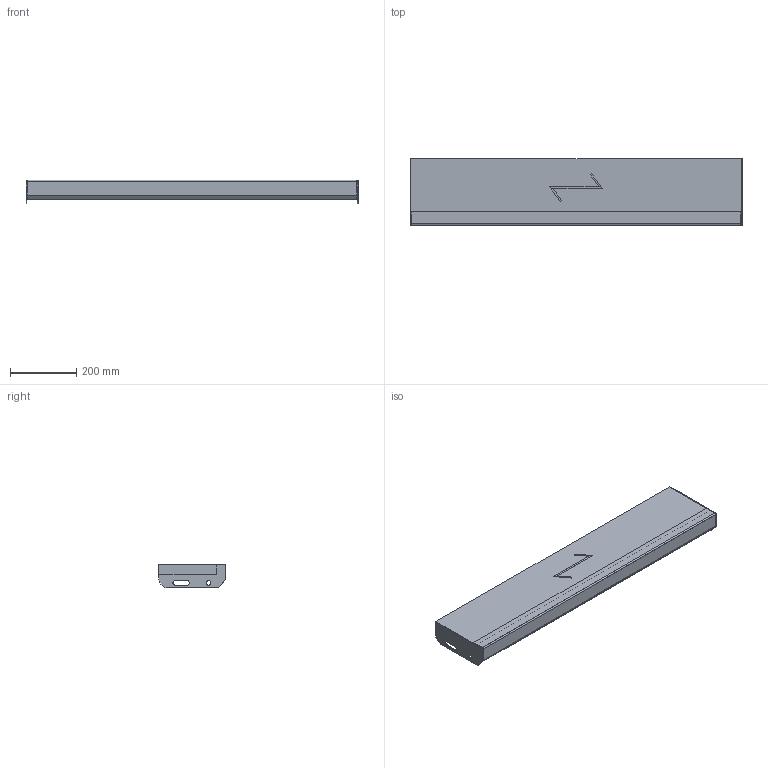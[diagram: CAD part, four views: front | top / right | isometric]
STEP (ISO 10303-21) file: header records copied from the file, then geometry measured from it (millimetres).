
FILE_DESCRIPTION (( 'STEP AP203' ), '1' );
FILE_NAME ('StegTH6-S-nya_steget-1000x200.STEP', '2020-03-04T07:44:10', ( '' ), ( '' ), 'SwSTEP 2.0', 'SolidWorks 2019', '' );
FILE_SCHEMA (( 'CONFIG_CONTROL_DESIGN' ));
Length unit declared in the file: millimetre
Products named in the file (5): SW0000038786; SW0000039246; SW0000038700; SW0000039530; StegTH6-S-nya_steget-1000x200
Assembly tree (5 placements, depth 3):
  StegTH6-S-nya_steget-1000x200
    SW0000039530
      SW0000038786
      SW0000039246
      SW0000038700  x2
Bounding box: 1000 x 200 x 72 mm (x, y, z)
Volume: 5460081.5 mm3; surface area: 670405.9 mm2
Topology: 4 solids, 4 shells, 67 faces, 158 edges, 100 vertices
Faces by surface type: plane 51, cylinder 16
Entity records: 2002 total; most frequent: DIRECTION 261, CARTESIAN_POINT 254, ORIENTED_EDGE 238, EDGE_CURVE 119, LINE 99, VECTOR 99, AXIS2_PLACEMENT_3D 81, VERTEX_POINT 74
